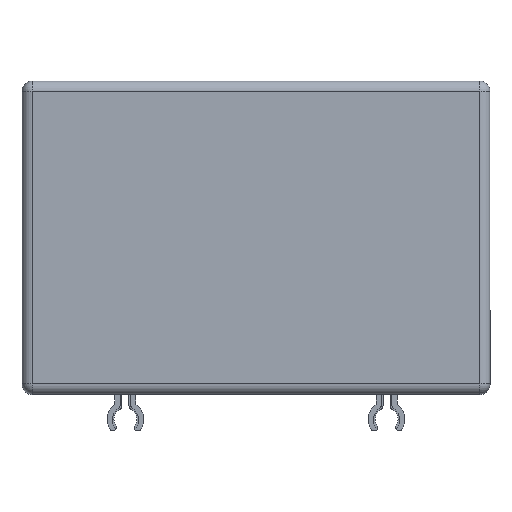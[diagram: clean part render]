
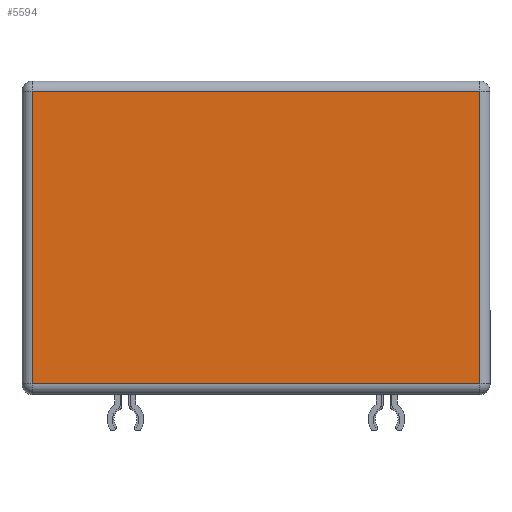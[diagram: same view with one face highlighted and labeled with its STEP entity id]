
A CAD part, top view. The second image highlights one B-rep face of the part: STEP entity #5594.
In plain terms, the highlighted planar face has unit normal (0, 0, 1).
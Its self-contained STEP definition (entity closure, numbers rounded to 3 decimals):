
#410 = ORIENTED_EDGE ( 'NONE', *, *, #3084, .T. ) ;
#516 = VERTEX_POINT ( 'NONE', #2400 ) ;
#710 = VERTEX_POINT ( 'NONE', #2228 ) ;
#1118 = DIRECTION ( 'NONE',  ( -1., 0., 0. ) ) ;
#1505 = LINE ( 'NONE', #2169, #4749 ) ;
#1607 = VECTOR ( 'NONE', #4698, 1000. ) ;
#1882 = ORIENTED_EDGE ( 'NONE', *, *, #8314, .T. ) ;
#2121 = EDGE_LOOP ( 'NONE', ( #6882, #1882, #7258, #410 ) ) ;
#2169 = CARTESIAN_POINT ( 'NONE',  ( -223.5, 506., 96.5 ) ) ;
#2228 = CARTESIAN_POINT ( 'NONE',  ( -4.5, 366., 96.5 ) ) ;
#2400 = CARTESIAN_POINT ( 'NONE',  ( -218.5, 506., 96.5 ) ) ;
#2495 = PLANE ( 'NONE',  #2973 ) ;
#2973 = AXIS2_PLACEMENT_3D ( 'NONE', #3361, #4157, #3176 ) ;
#3084 = EDGE_CURVE ( 'NONE', #6949, #710, #3131, .T. ) ;
#3131 = LINE ( 'NONE', #4457, #6563 ) ;
#3176 = DIRECTION ( 'NONE',  ( 1., 0., 0. ) ) ;
#3289 = EDGE_CURVE ( 'NONE', #516, #6949, #6556, .T. ) ;
#3361 = CARTESIAN_POINT ( 'NONE',  ( -223.5, 511., 96.5 ) ) ;
#3874 = FACE_OUTER_BOUND ( 'NONE', #2121, .T. ) ;
#4157 = DIRECTION ( 'NONE',  ( 0., 0., -1. ) ) ;
#4457 = CARTESIAN_POINT ( 'NONE',  ( -223.5, 366., 96.5 ) ) ;
#4698 = DIRECTION ( 'NONE',  ( 0., -1., 0. ) ) ;
#4749 = VECTOR ( 'NONE', #1118, 1000. ) ;
#5199 = DIRECTION ( 'NONE',  ( 1., 0., 0. ) ) ;
#5499 = CARTESIAN_POINT ( 'NONE',  ( -4.5, 511., 96.5 ) ) ;
#5594 = ADVANCED_FACE ( 'NONE', ( #3874 ), #2495, .F. ) ;
#5629 = EDGE_CURVE ( 'NONE', #710, #6548, #7390, .T. ) ;
#5668 = VECTOR ( 'NONE', #7635, 1000. ) ;
#6392 = CARTESIAN_POINT ( 'NONE',  ( -218.5, 511., 96.5 ) ) ;
#6548 = VERTEX_POINT ( 'NONE', #8282 ) ;
#6556 = LINE ( 'NONE', #6392, #1607 ) ;
#6563 = VECTOR ( 'NONE', #5199, 1000. ) ;
#6659 = CARTESIAN_POINT ( 'NONE',  ( -218.5, 366., 96.5 ) ) ;
#6882 = ORIENTED_EDGE ( 'NONE', *, *, #5629, .T. ) ;
#6949 = VERTEX_POINT ( 'NONE', #6659 ) ;
#7258 = ORIENTED_EDGE ( 'NONE', *, *, #3289, .T. ) ;
#7390 = LINE ( 'NONE', #5499, #5668 ) ;
#7635 = DIRECTION ( 'NONE',  ( 0., 1., 0. ) ) ;
#8282 = CARTESIAN_POINT ( 'NONE',  ( -4.5, 506., 96.5 ) ) ;
#8314 = EDGE_CURVE ( 'NONE', #6548, #516, #1505, .T. ) ;
